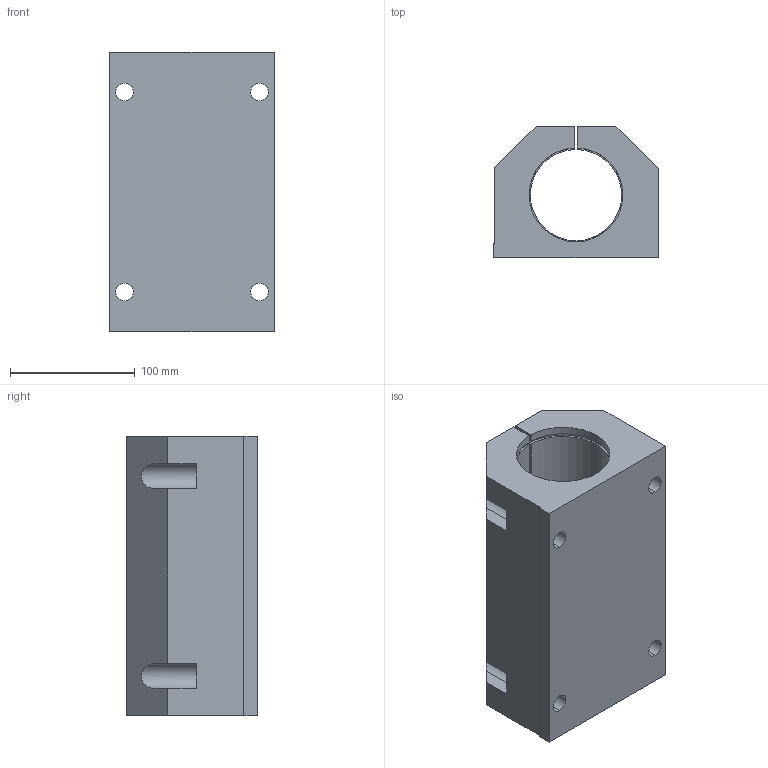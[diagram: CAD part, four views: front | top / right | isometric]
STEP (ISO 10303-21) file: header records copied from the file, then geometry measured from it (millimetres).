
FILE_DESCRIPTION (( 'STEP AP214' ), '1' );
FILE_NAME ('KTGE32-50.step', '2020-03-04T13:27:45', ( '' ), ( '' ), 'SwSTEP 2.0', 'SolidWorks 2019', '' );
FILE_SCHEMA (( 'AUTOMOTIVE_DESIGN' ));
Length unit declared in the file: millimetre
Products named in the file (1): KTGE32-50
Bounding box: 132 x 105 x 224 mm (x, y, z)
Volume: 1738047.7 mm3; surface area: 193070 mm2
Topology: 1 solids, 1 shells, 88 faces, 244 edges, 158 vertices
Faces by surface type: cylinder 49, plane 33, cone 6
Entity records: 3080 total; most frequent: CARTESIAN_POINT 575, DIRECTION 496, ORIENTED_EDGE 480, EDGE_CURVE 240, AXIS2_PLACEMENT_3D 177, VERTEX_POINT 158, VECTOR 142, LINE 142
